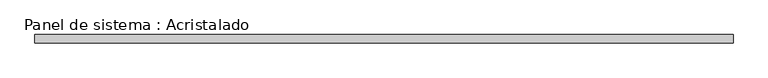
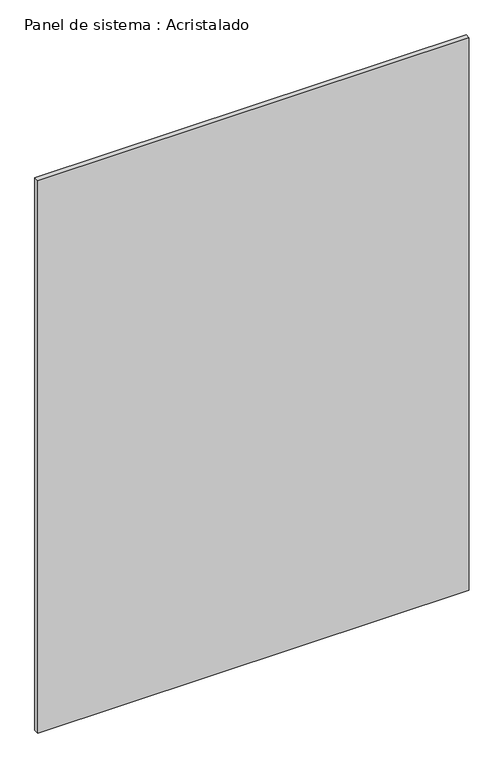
"""IFC4 building model written with IfcOpenShell, lengths in millimetres: plate geometry, Panel de sistema : Acristalado."""

from ifc_helpers import new_model, si_unit, origin, origin_with_axes, place, context, project, spatial, polyline, outline, extrude, source, transform, mapped, element, save


def panel_de_sistema_acristalado_83c3b375(model_context):
    return source(origin(), model_context, "Body", "SweptSolid", [
        extrude(outline(polyline([(850.0, -10.0), (-850.0, -10.0), (-850.0, 10.0), (850.0, 10.0), (850.0, -10.0)])), origin_with_axes(), (0.0, 0.0, 1.0), 2300.0),
    ])


if __name__ == "__main__":
    model = new_model("IFC4")
    model_context = context("Model", 3, world=origin())
    ifc_project = project(units=[si_unit("LENGTHUNIT", "METRE", prefix="MILLI")], contexts=[model_context])
    site = spatial("IfcSite", under=ifc_project)
    building = spatial("IfcBuilding", under=site)
    placement = place(None, origin())
    panel_de_sistema_acristalado_shape = panel_de_sistema_acristalado_83c3b375(model_context)
    element("IfcPlate", 1, ObjectType="Panel de sistema : Acristalado", at=placement, inside=building, context=model_context, shape_type="MappedRepresentation", body=[
        mapped(panel_de_sistema_acristalado_shape, transform((0.0, 0.0, 0.0), x_axis=(1.0, 0.0, 0.0), y_axis=(0.0, 1.0, 0.0), z_axis=(0.0, 0.0, 1.0))),
    ])
    save(model, "model.ifc")
